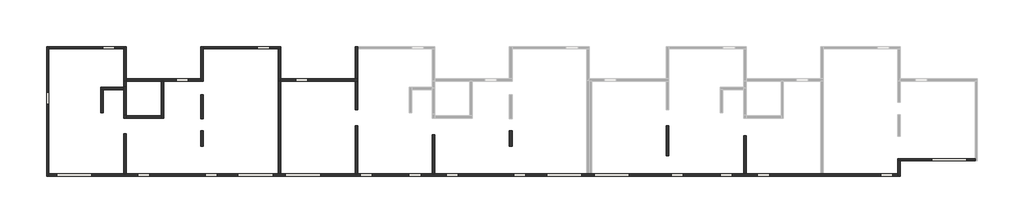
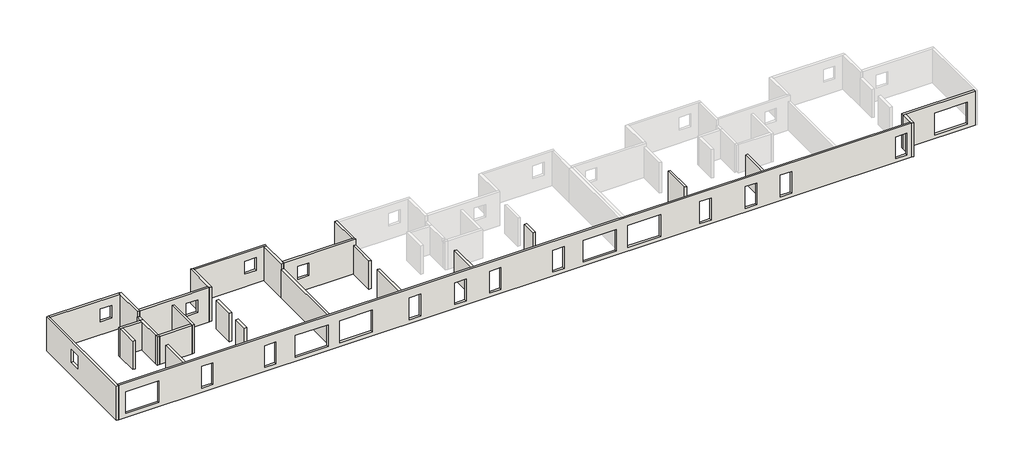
# One storey, part 1 of 2: 29 walls.
"""IFC4 building model written with IfcOpenShell, lengths in millimetres."""

from ifc_helpers import new_model, si_unit, frame, origin, place, context, project, spatial, polyline, outline, extrude, faceted_brep, element, save

model = new_model("IFC4")

# Units and contexts
model_context = context("Model", 3, world=origin())
ifc_project = project(units=[si_unit("LENGTHUNIT", "METRE", prefix="MILLI")], contexts=[model_context])

# Site, building, storey
site = spatial("IfcSite", under=ifc_project)
building = spatial("IfcBuilding", under=site)
storey = spatial("IfcBuildingStorey", under=building, Name="Niv +3", Elevation=8100.0)

# Walls
placement = place(None, origin())
element("IfcWall", 1, ObjectType="FREYS voile BA C25/30 ep=20 EXT", at=placement, inside=storey, context=model_context, shape_type="Brep", body=[
    faceted_brep([(-18635.4433224, 6426.3428699, 8100.0), (-18635.4433224, 6246.3428699, 8100.0), (-18635.4433224, 3746.3820367, 8100.0), (-18635.4433224, 3746.3820367, 10600.0), (-18635.4433224, 3746.3820367, 11100.0), (-18635.4433224, 6246.3428699, 11100.0), (-18635.4433224, 6426.3428699, 11100.0), (-18435.4433224, 6426.3428699, 8100.0), (-18435.4433224, 6426.3428699, 11100.0), (-18435.4433224, 3926.3820367, 11100.0), (-18435.4433224, 3746.3820367, 11100.0), (-18435.4433224, 3746.3820367, 10600.0), (-18435.4433224, 3746.3820367, 8100.0), (-18435.4433224, 3926.3820367, 8100.0)], [[[0, 1, 2, 3, 4, 5, 6]], [[7, 8, 9, 10, 11, 12, 13]], [[2, 1, 0, 7, 13, 12]], [[6, 5, 4, 10, 9, 8]], [[0, 6, 8, 7]], [[2, 12, 11, 10, 4, 3]]]),
])
element("IfcWall", 2, ObjectType="FREYS voile BA C25/30 ep=20 EXT", at=placement, inside=storey, context=model_context, shape_type="Brep", body=[
    faceted_brep([(-12435.4433224, 3746.3820367, 8100.0), (-12435.4433224, 6246.3230623, 8100.0), (-12435.4433224, 6426.3230623, 8100.0), (-12435.4433224, 6426.3230623, 11100.0), (-12435.4433224, 6246.3230623, 11100.0), (-12435.4433224, 3746.3820367, 11100.0), (-12635.4433224, 3746.3820367, 8100.0), (-12635.4433224, 3746.3820367, 11100.0), (-12635.4433224, 3926.3820367, 11100.0), (-12635.4433224, 6426.3230623, 11100.0), (-12635.4433224, 6426.3230623, 8100.0), (-12635.4433224, 3926.3820367, 8100.0)], [[[0, 1, 2, 3, 4, 5]], [[6, 7, 8, 9, 10, 11]], [[2, 1, 0, 6, 11, 10]], [[5, 4, 3, 9, 8, 7]], [[3, 2, 10, 9]], [[0, 5, 7, 6]]]),
])
element("IfcWall", 3, ObjectType="FREYS voile BA C25/30 ep=18 EXT", at=placement, inside=storey, context=model_context, shape_type="Brep", body=[
    faceted_brep([(-12435.4433224, 6246.3230623, 8100.0), (-6635.4433224, 6246.3230623, 8100.0), (-6435.4433224, 6246.3230623, 8100.0), (-6435.4433224, 6246.3230623, 11100.0), (-6635.4433224, 6246.3230623, 11100.0), (-12435.4433224, 6246.3230623, 11100.0), (-7295.4433224, 6246.3230623, 10370.0), (-7295.4433224, 6246.3230623, 9250.0), (-8235.4433224, 6246.3230623, 9250.0), (-8235.4433224, 6246.3230623, 10370.0), (-12435.4433224, 6426.3230623, 8100.0), (-12435.4433224, 6426.3230623, 11100.0), (-6435.4433224, 6426.3230623, 11100.0), (-6435.4433224, 6426.3230623, 8100.0), (-7295.4433224, 6426.3230623, 10370.0), (-8235.4433224, 6426.3230623, 10370.0), (-8235.4433224, 6426.3230623, 9250.0), (-7295.4433224, 6426.3230623, 9250.0)], [[[0, 1, 2, 3, 4, 5], [6, 7, 8, 9]], [[10, 11, 12, 13], [14, 15, 16, 17]], [[2, 1, 0, 10, 13]], [[5, 4, 3, 12, 11]], [[0, 5, 11, 10]], [[3, 2, 13, 12]], [[7, 6, 14, 17]], [[8, 7, 17, 16]], [[9, 8, 16, 15]], [[6, 9, 15, 14]]]),
])
element("IfcWall", 4, ObjectType="FREYS voile BA C25/30 ep=20 EXT", at=placement, inside=storey, context=model_context, shape_type="Brep", body=[
    faceted_brep([(-6635.4433224, 6246.3230623, 8100.0), (-6635.4433224, 3756.3825539, 8100.0), (-6635.4433224, 3756.3825539, 10600.0), (-6635.4433224, 3756.3825539, 11100.0), (-6635.4433224, 6246.3230623, 11100.0), (-6435.4433224, 6246.3230623, 8100.0), (-6435.4433224, 6246.3230623, 11100.0), (-6435.4433224, 3936.3825539, 11100.0), (-6435.4433224, 3756.3825539, 11100.0), (-6435.4433224, 3756.3825539, 10600.0), (-6435.4433224, 3756.3825539, 8100.0), (-6435.4433224, 3936.3825539, 8100.0)], [[[0, 1, 2, 3, 4]], [[5, 6, 7, 8, 9, 10, 11]], [[1, 0, 5, 11, 10]], [[4, 3, 8, 7, 6]], [[0, 4, 6, 5]], [[1, 10, 9, 8, 3, 2]]]),
])
element("IfcWall", 5, ObjectType="FREYS voile BA C25/30 ep=18 EXT", at=placement, inside=storey, context=model_context, shape_type="Brep", body=[
    faceted_brep([(-24455.4431265, -3653.6560797, 8100.0), (-24455.4431265, -3473.6560797, 8100.0), (-24455.4431265, 6246.3428699, 8100.0), (-24455.4431265, 6426.3428699, 8100.0), (-24455.4431265, 6426.3428699, 11100.0), (-24455.4431265, 6246.3428699, 11100.0), (-24455.4431265, -3473.6560797, 11100.0), (-24455.4431265, -3653.6560797, 11100.0), (-24455.4431265, 1936.3428699, 10370.0), (-24455.4431265, 2876.3428699, 10370.0), (-24455.4431265, 2876.3428699, 9250.0), (-24455.4431265, 1936.3428699, 9250.0), (-24635.4431265, -3653.6560797, 8100.0), (-24635.4431265, -3653.6560797, 11100.0), (-24635.4431265, 6426.3428699, 11100.0), (-24635.4431265, 6426.3428699, 8100.0), (-24635.4431265, 1936.3428699, 10370.0), (-24635.4431265, 1936.3428699, 9250.0), (-24635.4431265, 2876.3428699, 9250.0), (-24635.4431265, 2876.3428699, 10370.0)], [[[0, 1, 2, 3, 4, 5, 6, 7], [8, 9, 10, 11]], [[12, 13, 14, 15], [16, 17, 18, 19]], [[3, 2, 1, 0, 12, 15]], [[7, 6, 5, 4, 14, 13]], [[4, 3, 15, 14]], [[0, 7, 13, 12]], [[17, 16, 8, 11]], [[18, 17, 11, 10]], [[19, 18, 10, 9]], [[16, 19, 9, 8]]]),
])
element("IfcWall", 6, ObjectType="FREYS voile BA C25/30 ep=18 EXT", at=placement, inside=storey, context=model_context, shape_type="SweptSolid", body=[
    extrude(outline(polyline([(8100.0, -24455.4431265), (8100.0, -18635.4433224), (11100.0, -18635.4433224), (11100.0, -24455.4431265), (8100.0, -24455.4431265)]), holes=[polyline([(10370.0, -19315.4433224), (9250.0, -19315.4433224), (9250.0, -20255.4433224), (10370.0, -20255.4433224), (10370.0, -19315.4433224)])]), frame((0.0, 6246.3428699, 0.0), z_axis=(0.0, 1.0, 0.0), x_axis=(0.0, 0.0, 1.0)), (0.0, 0.0, 1.0), 180.0),
])
element("IfcWall", 7, ObjectType="FREYS voile BA C25/30 ep=18 EXT", at=placement, inside=storey, context=model_context, shape_type="Brep", body=[
    faceted_brep([(-18435.4433224, 3746.3820367, 11100.0), (-18435.4433224, 3746.3820367, 8100.0), (-15715.4423564, 3746.3820367, 8100.0), (-15535.4423564, 3746.3820367, 8100.0), (-12635.4433224, 3746.3820367, 8100.0), (-12635.4433224, 3746.3820367, 11100.0), (-14550.4428394, 3746.3820367, 10370.0), (-13610.4428394, 3746.3820367, 10370.0), (-13610.4428394, 3746.3820367, 9250.0), (-14550.4428394, 3746.3820367, 9250.0), (-18435.4433224, 3926.3820367, 8100.0), (-18435.4433224, 3926.3820367, 11100.0), (-12635.4433224, 3926.3820367, 11100.0), (-12635.4433224, 3926.3820367, 8100.0), (-14550.4428394, 3926.3820367, 10370.0), (-14550.4428394, 3926.3820367, 9250.0), (-13610.4428394, 3926.3820367, 9250.0), (-13610.4428394, 3926.3820367, 10370.0)], [[[0, 1, 2, 3, 4, 5], [6, 7, 8, 9]], [[10, 11, 12, 13], [14, 15, 16, 17]], [[4, 3, 2, 1, 10, 13]], [[0, 5, 12, 11]], [[5, 4, 13, 12]], [[0, 11, 10, 1]], [[15, 14, 6, 9]], [[16, 15, 9, 8]], [[17, 16, 8, 7]], [[14, 17, 7, 6]]]),
])
element("IfcWall", 8, ObjectType="FREYS voile BA C25/30 ep=18 EXT", at=placement, inside=storey, context=model_context, shape_type="Brep", body=[
    faceted_brep([(-6435.4433224, 3756.3825539, 11100.0), (-6435.4433224, 3756.3825539, 8100.0), (-635.4433224, 3756.3825539, 8100.0), (-435.4433224, 3756.3825539, 8100.0), (-435.4433224, 3756.3825539, 10600.0), (-435.4433224, 3756.3825539, 11100.0), (-5275.4433224, 3756.3825539, 10370.0), (-4335.4433224, 3756.3825539, 10370.0), (-4335.4433224, 3756.3825539, 9250.0), (-5275.4433224, 3756.3825539, 9250.0), (-6435.4433224, 3936.3825539, 8100.0), (-6435.4433224, 3936.3825539, 11100.0), (-635.4433224, 3936.3825539, 11100.0), (-435.4433224, 3936.3825539, 11100.0), (-435.4433224, 3936.3825539, 8100.0), (-635.4433224, 3936.3825539, 8100.0), (-5275.4433224, 3936.3825539, 10370.0), (-5275.4433224, 3936.3825539, 9250.0), (-4335.4433224, 3936.3825539, 9250.0), (-4335.4433224, 3936.3825539, 10370.0)], [[[0, 1, 2, 3, 4, 5], [6, 7, 8, 9]], [[10, 11, 12, 13, 14, 15], [16, 17, 18, 19]], [[3, 2, 1, 10, 15, 14]], [[0, 5, 13, 12, 11]], [[0, 11, 10, 1]], [[3, 14, 13, 5, 4]], [[17, 16, 6, 9]], [[18, 17, 9, 8]], [[19, 18, 8, 7]], [[16, 19, 7, 6]]]),
])
element("IfcWall", 9, ObjectType="FREYS voile BA C25/30 ep=20 EXT", at=placement, inside=storey, context=model_context, shape_type="Brep", body=[
    faceted_brep([(-435.4433224, 3936.3825539, 11100.0), (-435.4433224, 3936.3825539, 8100.0), (-435.4433224, 6256.3825539, 8100.0), (-435.4433224, 6436.3825539, 8100.0), (-435.4433224, 6436.3825539, 11100.0), (-435.4433224, 6256.3825539, 11100.0), (-635.4433224, 3936.3825539, 8100.0), (-635.4433224, 3936.3825539, 11100.0), (-635.4433224, 6436.3825539, 11100.0), (-635.4433224, 6436.3825539, 8100.0)], [[[0, 1, 2, 3, 4, 5]], [[6, 7, 8, 9]], [[3, 2, 1, 6, 9]], [[0, 5, 4, 8, 7]], [[4, 3, 9, 8]], [[0, 7, 6, 1]]]),
])
element("IfcWall", 10, ObjectType="FREYS voile BA C25/30 ep=18 EXT", at=placement, inside=storey, context=model_context, shape_type="Brep", body=[
    faceted_brep([(47574.5566776, -2273.6560797, 8100.0), (41564.5566776, -2273.6560797, 8100.0), (41564.5566776, -2273.6560797, 11100.0), (47574.5566776, -2273.6560797, 11100.0), (46924.5566776, -2273.6560797, 10350.0), (44184.5566776, -2273.6560797, 10350.0), (44184.5566776, -2273.6560797, 8430.0), (46924.5566776, -2273.6560797, 8430.0), (47574.5566776, -2453.6560797, 8100.0), (47574.5566776, -2453.6560797, 11100.0), (41764.5566776, -2453.6560797, 11100.0), (41564.5566776, -2453.6560797, 11100.0), (41564.5566776, -2453.6560797, 8100.0), (41764.5566776, -2453.6560797, 8100.0), (46924.5566776, -2453.6560797, 10350.0), (46924.5566776, -2453.6560797, 8430.0), (44184.5566776, -2453.6560797, 8430.0), (44184.5566776, -2453.6560797, 10350.0)], [[[0, 1, 2, 3], [4, 5, 6, 7]], [[8, 9, 10, 11, 12, 13], [14, 15, 16, 17]], [[1, 0, 8, 13, 12]], [[3, 2, 11, 10, 9]], [[0, 3, 9, 8]], [[2, 1, 12, 11]], [[15, 14, 4, 7]], [[16, 15, 7, 6]], [[17, 16, 6, 5]], [[14, 17, 5, 4]]]),
])
element("IfcWall", 11, ObjectType="FREYS voile BA C25/30 ep=20 EXT", at=placement, inside=storey, context=model_context, shape_type="Brep", body=[
    faceted_brep([(41564.5566776, -2453.6560797, 8100.0), (41564.5566776, -3473.6560797, 8100.0), (41564.5566776, -3653.6560797, 8100.0), (41564.5566776, -3653.6560797, 11100.0), (41564.5566776, -3473.6560797, 11100.0), (41564.5566776, -2453.6560797, 11100.0), (41764.5566776, -2453.6560797, 8100.0), (41764.5566776, -2453.6560797, 11100.0), (41764.5566776, -3653.6560797, 11100.0), (41764.5566776, -3653.6560797, 8100.0)], [[[0, 1, 2, 3, 4, 5]], [[6, 7, 8, 9]], [[2, 1, 0, 6, 9]], [[5, 4, 3, 8, 7]], [[0, 5, 7, 6]], [[3, 2, 9, 8]]]),
])
element("IfcWall", 12, ObjectType="FREYS voile BA C25/30 ep=18 EXT", at=placement, inside=storey, context=model_context, shape_type="Brep", body=[
    faceted_brep([(41564.5566776, -3473.6560797, 8100.0), (35764.5566776, -3473.6560797, 8100.0), (35564.5566776, -3473.6560797, 8100.0), (29764.5566776, -3473.6560797, 8100.0), (29564.5566776, -3473.6560797, 8100.0), (17778.5913396, -3473.6560797, 8100.0), (17578.5913396, -3473.6560797, 8100.0), (17554.5566776, -3473.6560797, 8100.0), (17354.5566776, -3473.6560797, 8100.0), (5564.5566776, -3473.6560797, 8100.0), (5364.5566776, -3473.6560797, 8100.0), (-435.4433224, -3473.6560797, 8100.0), (-635.4433224, -3473.6560797, 8100.0), (-6435.4433224, -3473.6560797, 8100.0), (-6635.4433224, -3473.6560797, 8100.0), (-18435.4433224, -3473.6560797, 8100.0), (-18635.4433224, -3473.6560797, 8100.0), (-24455.4431265, -3473.6560797, 8100.0), (-24455.4431265, -3473.6560797, 11100.0), (17354.5566776, -3473.6560797, 11100.0), (17554.5566776, -3473.6560797, 11100.0), (17578.5913396, -3473.6560797, 11100.0), (17778.5913396, -3473.6560797, 11100.0), (41564.5566776, -3473.6560797, 11100.0), (-21105.4431265, -3473.6560797, 8430.0), (-21105.4431265, -3473.6560797, 10350.0), (-23845.4431265, -3473.6560797, 10350.0), (-23845.4431265, -3473.6560797, 8430.0), (-16595.4433224, -3473.6560797, 8430.0), (-16595.4433224, -3473.6560797, 10350.0), (-17535.4433224, -3473.6560797, 10350.0), (-17535.4433224, -3473.6560797, 8430.0), (-12295.4433224, -3473.6560797, 10350.0), (-12295.4433224, -3473.6560797, 8430.0), (-11355.4433224, -3473.6560797, 8430.0), (-11355.4433224, -3473.6560797, 10350.0), (-9755.4433224, -3473.6560797, 10350.0), (-9755.4433224, -3473.6560797, 8430.0), (-7015.4433224, -3473.6560797, 8430.0), (-7015.4433224, -3473.6560797, 10350.0), (-6055.4433224, -3473.6560797, 10350.0), (-6055.4433224, -3473.6560797, 8430.0), (-3315.4433224, -3473.6560797, 8430.0), (-3315.4433224, -3473.6560797, 10350.0), (684.5566776, -3473.6560797, 8430.0), (684.5566776, -3473.6560797, 10350.0), (-255.4433224, -3473.6560797, 10350.0), (-255.4433224, -3473.6560797, 8430.0), (3544.5566776, -3473.6560797, 10350.0), (3544.5566776, -3473.6560797, 8430.0), (4484.5566776, -3473.6560797, 8430.0), (4484.5566776, -3473.6560797, 10350.0), (6444.5566776, -3473.6560797, 10350.0), (6444.5566776, -3473.6560797, 8430.0), (7384.5566776, -3473.6560797, 8430.0), (7384.5566776, -3473.6560797, 10350.0), (12644.5566776, -3473.6560797, 10350.0), (11704.5566776, -3473.6560797, 10350.0), (11704.5566776, -3473.6560797, 8430.0), (12644.5566776, -3473.6560797, 8430.0), (14254.5566776, -3473.6560797, 10350.0), (14254.5566776, -3473.6560797, 8430.0), (16994.5566776, -3473.6560797, 8430.0), (16994.5566776, -3473.6560797, 10350.0), (17938.5913396, -3473.6560797, 10350.0), (17938.5913396, -3473.6560797, 8430.0), (20678.5913396, -3473.6560797, 8430.0), (20678.5913396, -3473.6560797, 10350.0), (23938.5913396, -3473.6560797, 10350.0), (23938.5913396, -3473.6560797, 8430.0), (24878.5913396, -3473.6560797, 8430.0), (24878.5913396, -3473.6560797, 10350.0), (27744.5566776, -3473.6560797, 10350.0), (27744.5566776, -3473.6560797, 8430.0), (28684.5566776, -3473.6560797, 8430.0), (28684.5566776, -3473.6560797, 10350.0), (30644.5566776, -3473.6560797, 10350.0), (30644.5566776, -3473.6560797, 8430.0), (31584.5566776, -3473.6560797, 8430.0), (31584.5566776, -3473.6560797, 10350.0), (40244.5566776, -3473.6560797, 10350.0), (40244.5566776, -3473.6560797, 8430.0), (41184.5566776, -3473.6560797, 8430.0), (41184.5566776, -3473.6560797, 10350.0), (-24455.4431265, -3653.6560797, 8100.0), (41564.5566776, -3653.6560797, 8100.0), (41564.5566776, -3653.6560797, 11100.0), (-24455.4431265, -3653.6560797, 11100.0), (-21105.4431265, -3653.6560797, 10350.0), (-21105.4431265, -3653.6560797, 8430.0), (-23845.4431265, -3653.6560797, 8430.0), (-23845.4431265, -3653.6560797, 10350.0), (-16595.4433224, -3653.6560797, 10350.0), (-16595.4433224, -3653.6560797, 8430.0), (-17535.4433224, -3653.6560797, 8430.0), (-17535.4433224, -3653.6560797, 10350.0), (-12295.4433224, -3653.6560797, 8430.0), (-12295.4433224, -3653.6560797, 10350.0), (-11355.4433224, -3653.6560797, 10350.0), (-11355.4433224, -3653.6560797, 8430.0), (-9755.4433224, -3653.6560797, 8430.0), (-9755.4433224, -3653.6560797, 10350.0), (-7015.4433224, -3653.6560797, 10350.0), (-7015.4433224, -3653.6560797, 8430.0), (-6055.4433224, -3653.6560797, 8430.0), (-6055.4433224, -3653.6560797, 10350.0), (-3315.4433224, -3653.6560797, 10350.0), (-3315.4433224, -3653.6560797, 8430.0), (684.5566776, -3653.6560797, 10350.0), (684.5566776, -3653.6560797, 8430.0), (-255.4433224, -3653.6560797, 8430.0), (-255.4433224, -3653.6560797, 10350.0), (3544.5566776, -3653.6560797, 10350.0), (4484.5566776, -3653.6560797, 10350.0), (4484.5566776, -3653.6560797, 8430.0), (3544.5566776, -3653.6560797, 8430.0), (6444.5566776, -3653.6560797, 10350.0), (7384.5566776, -3653.6560797, 10350.0), (7384.5566776, -3653.6560797, 8430.0), (6444.5566776, -3653.6560797, 8430.0), (12644.5566776, -3653.6560797, 10350.0), (12644.5566776, -3653.6560797, 8430.0), (11704.5566776, -3653.6560797, 8430.0), (11704.5566776, -3653.6560797, 10350.0), (14254.5566776, -3653.6560797, 10350.0), (16994.5566776, -3653.6560797, 10350.0), (16994.5566776, -3653.6560797, 8430.0), (14254.5566776, -3653.6560797, 8430.0), (17938.5913396, -3653.6560797, 10350.0), (20678.5913396, -3653.6560797, 10350.0), (20678.5913396, -3653.6560797, 8430.0), (17938.5913396, -3653.6560797, 8430.0), (23938.5913396, -3653.6560797, 10350.0), (24878.5913396, -3653.6560797, 10350.0), (24878.5913396, -3653.6560797, 8430.0), (23938.5913396, -3653.6560797, 8430.0), (27744.5566776, -3653.6560797, 10350.0), (28684.5566776, -3653.6560797, 10350.0), (28684.5566776, -3653.6560797, 8430.0), (27744.5566776, -3653.6560797, 8430.0), (30644.5566776, -3653.6560797, 10350.0), (31584.5566776, -3653.6560797, 10350.0), (31584.5566776, -3653.6560797, 8430.0), (30644.5566776, -3653.6560797, 8430.0), (40244.5566776, -3653.6560797, 10350.0), (41184.5566776, -3653.6560797, 10350.0), (41184.5566776, -3653.6560797, 8430.0), (40244.5566776, -3653.6560797, 8430.0)], [[[0, 1, 2, 3, 4, 5, 6, 7, 8, 9, 10, 11, 12, 13, 14, 15, 16, 17, 18, 19, 20, 21, 22, 23], [24, 25, 26, 27], [28, 29, 30, 31], [32, 33, 34, 35], [36, 37, 38, 39], [40, 41, 42, 43], [44, 45, 46, 47], [48, 49, 50, 51], [52, 53, 54, 55], [56, 57, 58, 59], [60, 61, 62, 63], [64, 65, 66, 67], [68, 69, 70, 71], [72, 73, 74, 75], [76, 77, 78, 79], [80, 81, 82, 83]], [[84, 85, 86, 87], [88, 89, 90, 91], [92, 93, 94, 95], [96, 97, 98, 99], [100, 101, 102, 103], [104, 105, 106, 107], [108, 109, 110, 111], [112, 113, 114, 115], [116, 117, 118, 119], [120, 121, 122, 123], [124, 125, 126, 127], [128, 129, 130, 131], [132, 133, 134, 135], [136, 137, 138, 139], [140, 141, 142, 143], [144, 145, 146, 147]], [[17, 16, 15, 14, 13, 12, 11, 10, 9, 8, 7, 6, 5, 4, 3, 2, 1, 0, 85, 84]], [[23, 22, 21, 20, 19, 18, 87, 86]], [[0, 23, 86, 85]], [[18, 17, 84, 87]], [[24, 89, 88, 25]], [[89, 24, 27, 90]], [[90, 27, 26, 91]], [[25, 88, 91, 26]], [[92, 29, 28, 93]], [[93, 28, 31, 94]], [[94, 31, 30, 95]], [[29, 92, 95, 30]], [[33, 32, 97, 96]], [[34, 33, 96, 99]], [[35, 34, 99, 98]], [[32, 35, 98, 97]], [[37, 36, 101, 100]], [[38, 37, 100, 103]], [[39, 38, 103, 102]], [[36, 39, 102, 101]], [[41, 40, 105, 104]], [[42, 41, 104, 107]], [[43, 42, 107, 106]], [[40, 43, 106, 105]], [[109, 108, 45, 44]], [[110, 109, 44, 47]], [[111, 110, 47, 46]], [[108, 111, 46, 45]], [[49, 48, 112, 115]], [[50, 49, 115, 114]], [[51, 50, 114, 113]], [[48, 51, 113, 112]], [[53, 52, 116, 119]], [[54, 53, 119, 118]], [[55, 54, 118, 117]], [[52, 55, 117, 116]], [[121, 120, 56, 59]], [[122, 121, 59, 58]], [[123, 122, 58, 57]], [[120, 123, 57, 56]], [[61, 60, 124, 127]], [[62, 61, 127, 126]], [[63, 62, 126, 125]], [[60, 63, 125, 124]], [[65, 64, 128, 131]], [[66, 65, 131, 130]], [[67, 66, 130, 129]], [[64, 67, 129, 128]], [[69, 68, 132, 135]], [[70, 69, 135, 134]], [[71, 70, 134, 133]], [[68, 71, 133, 132]], [[73, 72, 136, 139]], [[74, 73, 139, 138]], [[75, 74, 138, 137]], [[72, 75, 137, 136]], [[77, 76, 140, 143]], [[78, 77, 143, 142]], [[79, 78, 142, 141]], [[76, 79, 141, 140]], [[81, 80, 144, 147]], [[82, 81, 147, 146]], [[83, 82, 146, 145]], [[80, 83, 145, 144]]]),
])
element("IfcWall", 13, ObjectType="FREYS voile BA C25/30 ep=20 INT", at=placement, inside=storey, context=model_context, shape_type="SweptSolid", body=[
    extrude(outline(polyline([(-18635.4433224, 3296.3820367), (-18635.4433224, 3746.3820367), (-18435.4433224, 3746.3820367), (-18435.4433224, 3296.3820367), (-18635.4433224, 3296.3820367)])), frame((0.0, 0.0, 8100.0), z_axis=(0.0, 0.0, 1.0), x_axis=(1.0, 0.0, 0.0)), (0.0, 0.0, 1.0), 2500.0),
])
element("IfcWall", 14, ObjectType="FREYS voile BA C25/30 ep=20 INT", at=placement, inside=storey, context=model_context, shape_type="Brep", body=[
    faceted_brep([(-18635.4433224, 3286.3382733, 8100.0), (-20435.4602926, 3286.3382733, 8100.0), (-20435.4602926, 3286.3382733, 10600.0), (-18635.4433224, 3286.3382733, 10600.0), (-18635.4433224, 3086.3382733, 8100.0), (-18635.4433224, 3086.3382733, 10600.0), (-20235.4602926, 3086.3382733, 10600.0), (-20435.4602926, 3086.3382733, 10600.0), (-20435.4602926, 3086.3382733, 8100.0), (-20235.4602926, 3086.3382733, 8100.0)], [[[0, 1, 2, 3]], [[4, 5, 6, 7, 8, 9]], [[1, 0, 4, 9, 8]], [[3, 2, 7, 6, 5]], [[0, 3, 5, 4]], [[2, 1, 8, 7]]]),
])
element("IfcWall", 15, ObjectType="FREYS voile BA C25/30 ep=20 INT", at=placement, inside=storey, context=model_context, shape_type="Brep", body=[
    faceted_brep([(-20435.4602926, 3086.3382733, 8100.0), (-20435.4602926, 1286.3382733, 8100.0), (-20435.4602926, 1286.3382733, 10350.0), (-20435.4602926, 1286.3382733, 10600.0), (-20435.4602926, 3086.3382733, 10600.0), (-20235.4602926, 3086.3382733, 8100.0), (-20235.4602926, 3086.3382733, 10600.0), (-20235.4602926, 1286.3382733, 10600.0), (-20235.4602926, 1286.3382733, 8100.0)], [[[0, 1, 2, 3, 4]], [[5, 6, 7, 8]], [[1, 0, 5, 8]], [[4, 3, 7, 6]], [[0, 4, 6, 5]], [[3, 2, 1, 8, 7]]]),
])
element("IfcWall", 16, ObjectType="FREYS voile BA C25/30 ep=20 INT", at=placement, inside=storey, context=model_context, shape_type="SweptSolid", body=[
    extrude(outline(polyline([(-18635.4433224, -3473.6560797), (-18635.4433224, -353.6560797), (-18435.4433224, -353.6560797), (-18435.4433224, -3473.6560797), (-18635.4433224, -3473.6560797)])), frame((0.0, 0.0, 8100.0), z_axis=(0.0, 0.0, 1.0), x_axis=(1.0, 0.0, 0.0)), (0.0, 0.0, 1.0), 2500.0),
])
element("IfcWall", 17, ObjectType="FREYS voile BA C25/30 ep=20 INT", at=placement, inside=storey, context=model_context, shape_type="SweptSolid", body=[
    extrude(outline(polyline([(-12635.4433224, 826.3802819), (-12635.4433224, 2706.3866908), (-12435.4433224, 2706.3866908), (-12435.4433224, 826.3802819), (-12635.4433224, 826.3802819)])), frame((0.0, 0.0, 8100.0), z_axis=(0.0, 0.0, 1.0), x_axis=(1.0, 0.0, 0.0)), (0.0, 0.0, 1.0), 2500.0),
])
element("IfcWall", 18, ObjectType="FREYS voile BA C25/30 ep=20 INT", at=placement, inside=storey, context=model_context, shape_type="SweptSolid", body=[
    extrude(outline(polyline([(-12635.4433224, -1333.6197181), (-12635.4433224, -113.6197181), (-12435.4433224, -113.6197181), (-12435.4433224, -1333.6197181), (-12635.4433224, -1333.6197181)])), frame((0.0, 0.0, 8100.0), z_axis=(0.0, 0.0, 1.0), x_axis=(1.0, 0.0, 0.0)), (0.0, 0.0, 1.0), 2500.0),
])
element("IfcWall", 19, ObjectType="FREYS voile BA C25/30 ep=18 INT", at=placement, inside=storey, context=model_context, shape_type="Brep", body=[
    faceted_brep([(-15715.4423564, 3746.3820367, 8100.0), (-15715.4423564, 1046.3765424, 8100.0), (-15715.4423564, 866.3765424, 8100.0), (-15715.4423564, 866.3765424, 10600.0), (-15715.4423564, 1046.3765424, 10600.0), (-15715.4423564, 3746.3820367, 10600.0), (-15535.4423564, 3746.3820367, 8100.0), (-15535.4423564, 3746.3820367, 10600.0), (-15535.4423564, 866.3765424, 10600.0), (-15535.4423564, 866.3765424, 8100.0)], [[[0, 1, 2, 3, 4, 5]], [[6, 7, 8, 9]], [[2, 1, 0, 6, 9]], [[5, 4, 3, 8, 7]], [[0, 5, 7, 6]], [[3, 2, 9, 8]]]),
])
element("IfcWall", 20, ObjectType="FREYS voile BA C25/30 ep=18 INT", at=placement, inside=storey, context=model_context, shape_type="SweptSolid", body=[
    extrude(outline(polyline([(-18435.4433224, 1046.3765424), (-15715.4423564, 1046.3765424), (-15715.4423564, 866.3765424), (-18435.4433224, 866.3765424), (-18435.4433224, 1046.3765424)])), frame((0.0, 0.0, 8100.0), z_axis=(0.0, 0.0, 1.0), x_axis=(1.0, 0.0, 0.0)), (0.0, 0.0, 1.0), 2500.0),
])
element("IfcWall", 21, ObjectType="FREYS voile BA C25/30 ep=20 INT", at=placement, inside=storey, context=model_context, shape_type="SweptSolid", body=[
    extrude(outline(polyline([(-6635.4433224, -3473.6560797), (-6635.4433224, 3756.3825539), (-6435.4433224, 3756.3825539), (-6435.4433224, -3473.6560797), (-6635.4433224, -3473.6560797)])), frame((0.0, 0.0, 8100.0), z_axis=(0.0, 0.0, 1.0), x_axis=(1.0, 0.0, 0.0)), (0.0, 0.0, 1.0), 2500.0),
])
element("IfcWall", 22, ObjectType="FREYS voile BA C25/30 ep=20 INT", at=placement, inside=storey, context=model_context, shape_type="SweptSolid", body=[
    extrude(outline(polyline([(-635.4433224, 1506.3865795), (-635.4433224, 3756.3825539), (-435.4433224, 3756.3825539), (-435.4433224, 1506.3865795), (-635.4433224, 1506.3865795)])), frame((0.0, 0.0, 8100.0), z_axis=(0.0, 0.0, 1.0), x_axis=(1.0, 0.0, 0.0)), (0.0, 0.0, 1.0), 2500.0),
])
element("IfcWall", 23, ObjectType="FREYS voile BA C25/30 ep=20 INT", at=placement, inside=storey, context=model_context, shape_type="SweptSolid", body=[
    extrude(outline(polyline([(-635.4433224, -3473.6560797), (-635.4433224, 266.3621474), (-435.4433224, 266.3621474), (-435.4433224, -3473.6560797), (-635.4433224, -3473.6560797)])), frame((0.0, 0.0, 8100.0), z_axis=(0.0, 0.0, 1.0), x_axis=(1.0, 0.0, 0.0)), (0.0, 0.0, 1.0), 2500.0),
])
element("IfcWall", 24, ObjectType="FREYS voile BA C25/30 ep=20 INT", at=placement, inside=storey, context=model_context, shape_type="SweptSolid", body=[
    extrude(outline(polyline([(5364.5566776, -3473.6560797), (5364.5566776, -433.6186452), (5564.5566776, -433.6186452), (5564.5566776, -3473.6560797), (5364.5566776, -3473.6560797)])), frame((0.0, 0.0, 8100.0), z_axis=(0.0, 0.0, 1.0), x_axis=(1.0, 0.0, 0.0)), (0.0, 0.0, 1.0), 2500.0),
])
element("IfcWall", 25, ObjectType="FREYS voile BA C25/30 ep=20 INT", at=placement, inside=storey, context=model_context, shape_type="SweptSolid", body=[
    extrude(outline(polyline([(11364.5566776, -1333.6197181), (11364.5566776, -113.6197181), (11564.5566776, -113.6197181), (11564.5566776, -1333.6197181), (11364.5566776, -1333.6197181)])), frame((0.0, 0.0, 8100.0), z_axis=(0.0, 0.0, 1.0), x_axis=(1.0, 0.0, 0.0)), (0.0, 0.0, 1.0), 2500.0),
])
element("IfcWall", 26, ObjectType="FREYS voile BA C25/30 ep=20 EXT", at=placement, inside=storey, context=model_context, shape_type="SweptSolid", body=[
    extrude(outline(polyline([(23564.5566776, -2073.6560797), (23564.5566776, 266.3621474), (23764.5566776, 266.3621474), (23764.5566776, -2073.6560797), (23564.5566776, -2073.6560797)])), frame((0.0, 0.0, 8100.0), z_axis=(0.0, 0.0, 1.0), x_axis=(1.0, 0.0, 0.0)), (0.0, 0.0, 1.0), 2700.0),
])
element("IfcWall", 27, ObjectType="FREYS voile BA C25/30 ep=20 INT", at=placement, inside=storey, context=model_context, shape_type="SweptSolid", body=[
    extrude(outline(polyline([(29564.5566776, -3473.6560797), (29564.5566776, -513.6197181), (29764.5566776, -513.6197181), (29764.5566776, -3473.6560797), (29564.5566776, -3473.6560797)])), frame((0.0, 0.0, 8100.0), z_axis=(0.0, 0.0, 1.0), x_axis=(1.0, 0.0, 0.0)), (0.0, 0.0, 1.0), 2500.0),
])
element("IfcWall", 28, ObjectType="FREYS voile BA C25/30 ep=20 INT", at=placement, inside=storey, context=model_context, shape_type="Brep", body=[
    faceted_brep([(-18635.4433224, 3296.3820367, 8100.0), (-18635.4433224, 3286.3382733, 8100.0), (-18635.4433224, 3086.3382733, 8100.0), (-18635.4433224, 1076.3765424, 8100.0), (-18635.4433224, 1076.3765424, 10600.0), (-18635.4433224, 3086.3382733, 10600.0), (-18635.4433224, 3286.3382733, 10600.0), (-18635.4433224, 3296.3820367, 10600.0), (-18435.4433224, 3296.3820367, 8100.0), (-18435.4433224, 3296.3820367, 10600.0), (-18435.4433224, 1076.3765424, 10600.0), (-18435.4433224, 1076.3765424, 8100.0)], [[[0, 1, 2, 3, 4, 5, 6, 7]], [[8, 9, 10, 11]], [[3, 2, 1, 0, 8, 11]], [[4, 3, 11, 10]], [[7, 6, 5, 4, 10, 9]], [[0, 7, 9, 8]]]),
])
element("IfcWall", 29, ObjectType="FREYS voile BA C25/30 ep=20 INT", at=placement, inside=storey, context=model_context, shape_type="Brep", body=[
    faceted_brep([(-18635.4433224, 1076.3765424, 8100.0), (-18635.4433224, 866.3765424, 8100.0), (-18635.4433224, 866.3765424, 10600.0), (-18635.4433224, 1076.3765424, 10600.0), (-18435.4433224, 1076.3765424, 8100.0), (-18435.4433224, 1076.3765424, 10600.0), (-18435.4433224, 1046.3765424, 10600.0), (-18435.4433224, 866.3765424, 10600.0), (-18435.4433224, 866.3765424, 8100.0), (-18435.4433224, 1046.3765424, 8100.0)], [[[0, 1, 2, 3]], [[4, 5, 6, 7, 8, 9]], [[1, 0, 4, 9, 8]], [[3, 2, 7, 6, 5]], [[0, 3, 5, 4]], [[2, 1, 8, 7]]]),
])

save(model, "model.ifc")
